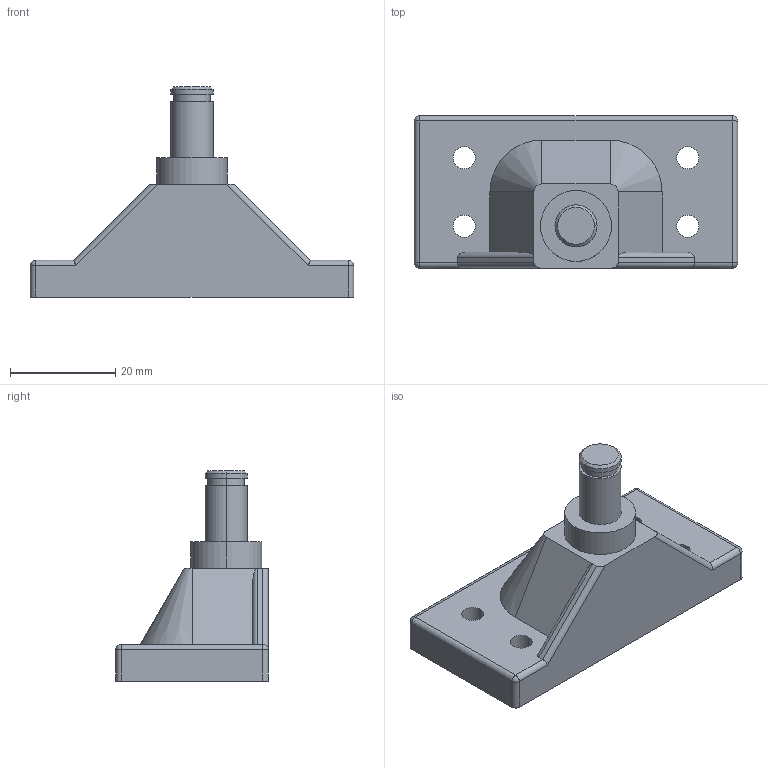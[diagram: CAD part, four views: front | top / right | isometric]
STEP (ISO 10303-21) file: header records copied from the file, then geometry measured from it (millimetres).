
FILE_DESCRIPTION (( 'STEP AP214' ), '1' );
FILE_NAME ('15.BSP101.STEP', '2017-10-23T10:25:59', ( '' ), ( '' ), 'SwSTEP 2.0', 'SolidWorks 2016', '' );
FILE_SCHEMA (( 'AUTOMOTIVE_DESIGN' ));
Length unit declared in the file: millimetre
Products named in the file (1): 15.BSP101
Bounding box: 61.5 x 29 x 40 mm (x, y, z)
Volume: 20751.3 mm3; surface area: 6567.7 mm2
Topology: 1 solids, 1 shells, 55 faces, 133 edges, 80 vertices
Faces by surface type: cylinder 29, plane 18, cone 4, sphere 4
Entity records: 1623 total; most frequent: CARTESIAN_POINT 289, DIRECTION 287, ORIENTED_EDGE 258, EDGE_CURVE 129, AXIS2_PLACEMENT_3D 110, VERTEX_POINT 80, VECTOR 67, EDGE_LOOP 67
